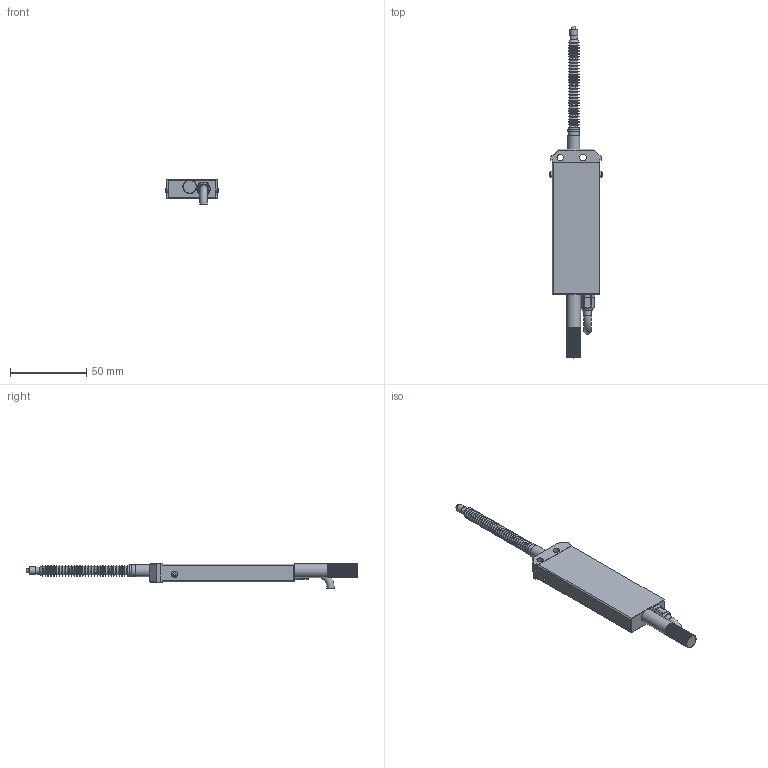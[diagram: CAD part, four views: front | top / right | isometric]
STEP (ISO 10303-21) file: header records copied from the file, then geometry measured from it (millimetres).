
FILE_DESCRIPTION( ( 'STEP AP203' ), '1' );
FILE_NAME( 'N:/Engineering/CAD_Solid/Magnescale/DT- Serie/DT32N/Kunden 3D/DT32P.stp', '2012-11-26T08:46:52', ( ' ' ), ( ' ' ), 'XStep 1.0', ' ', ' ' );
FILE_SCHEMA( ( 'CONFIG_CONTROL_DESIGN) ( )' ) );
Length unit declared in the file: metre
Products named in the file (11): 1; 2; 3; 4; 5; 6; 7; 8; 9; 10; 11
Bounding box: 34.92 x 217.99 x 16 mm (x, y, z)
Surface area: 13598.7 mm2 (no closed solid volume)
Topology: 0 solids, 454 shells, 454 faces, 2348 edges, 2203 vertices
Faces by surface type: plane 239, cone 135, torus 63, cylinder 14, sphere 3
Full cylindrical faces by diameter (mm): 4 x2, 4.2 x2, 4.703 x1, 4.8 x1, 5 x1, 5.917 x1, 7 x1, 7.3 x1, 7.5 x1, 7.7 x1, 8 x1, 9 x1
Entity records: 21980 total; most frequent: CARTESIAN_POINT 5663, DIRECTION 3190, ORIENTED_EDGE 2070, EDGE_CURVE 2070, VERTEX_POINT 2070, LINE 1260, VECTOR 1260, AXIS2_PLACEMENT_3D 965
